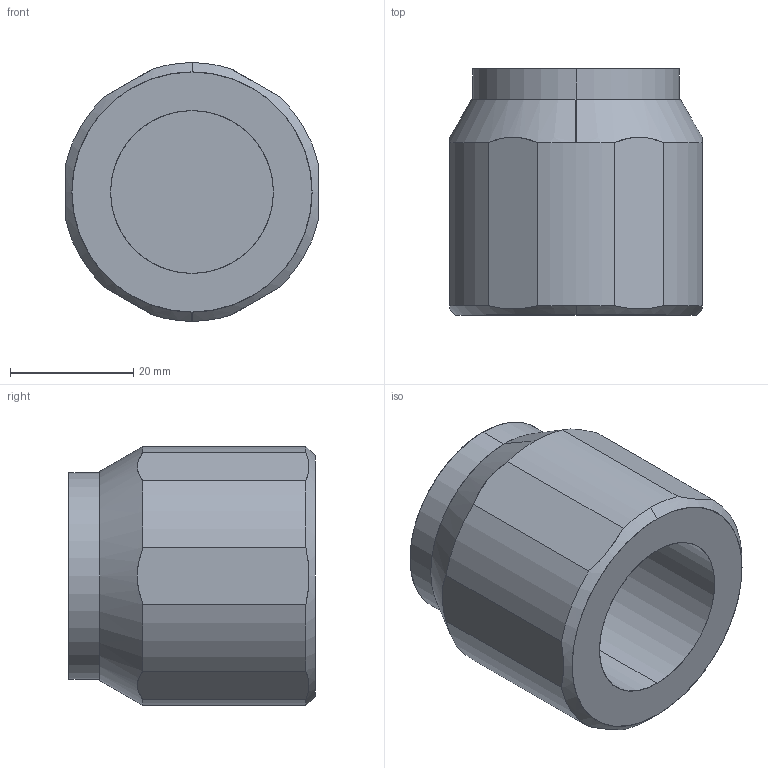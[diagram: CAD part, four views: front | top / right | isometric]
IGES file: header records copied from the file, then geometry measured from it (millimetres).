
Start section: SolidWorks IGES file using analytic representation for surfaces
Global section: file name: G:\Silvent\Ritningar\Övrigt\IGES\Silvent 710.IGS; native system: SolidWorks 2011; preprocessor: SolidWorks 2011; author: silvrati; date: 111208.160852; units: millimetre
Bounding box: 41 x 40 x 42 mm (x, y, z)
Surface area: 9841.1 mm2 (no closed solid volume)
Topology: 0 solids, 0 shells, 31 faces, 398 edges, 398 vertices
Faces by surface type: revolution 19, bspline 12
